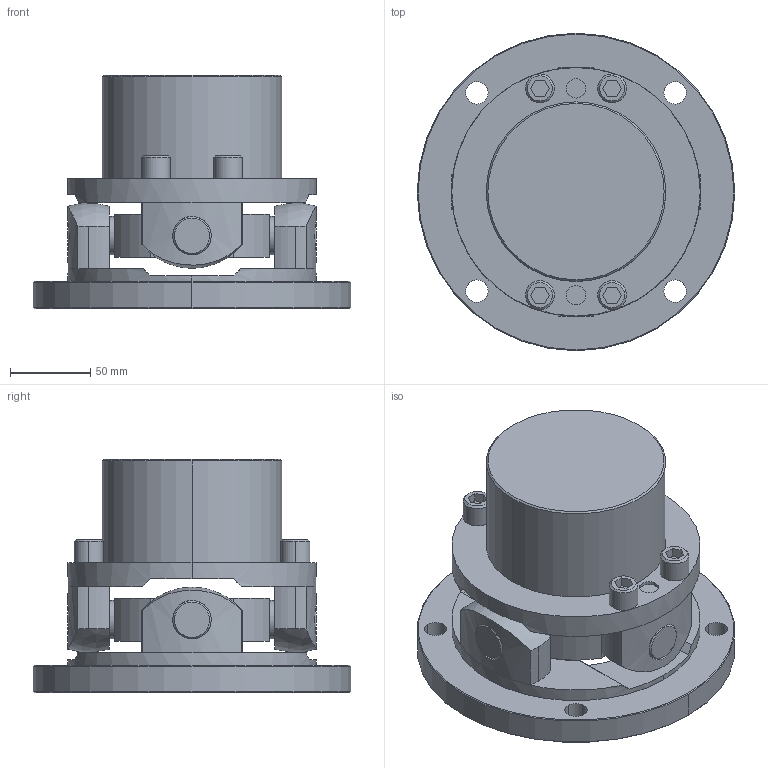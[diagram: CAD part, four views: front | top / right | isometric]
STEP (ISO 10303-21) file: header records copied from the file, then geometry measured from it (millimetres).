
FILE_DESCRIPTION((''),'2;1');
FILE_NAME('UCRF-155.stp','2013-05-13T09:12:15',(''),(''),'AutoCAD STEP 2000i','AutoCAD 2000i',', , ');
FILE_SCHEMA(('CONFIG_CONTROL_DESIGN'));
Length unit declared in the file: millimetre
Products named in the file (7): UCRF-155; 忣兜1; UCR-15502; UCNF-15502; UCN155-B045-1; UCN155-B045; UCN155-SEN
Assembly tree (6 placements, depth 2):
  UCRF-155
    忣兜1
    UCR-15502
    UCNF-15502
    UCN155-B045-1
    UCN155-B045
    UCN155-SEN
Bounding box: 198 x 198 x 145.5 mm (x, y, z)
Volume: 1683540.1 mm3; surface area: 194752.1 mm2
Topology: 1 solids, 1 shells, 237 faces, 585 edges, 390 vertices
Faces by surface type: plane 105, cylinder 94, cone 34, sphere 4
Entity records: 7650 total; most frequent: CARTESIAN_POINT 1616, DIRECTION 1315, ORIENTED_EDGE 1156, EDGE_CURVE 578, AXIS2_PLACEMENT_3D 502, VERTEX_POINT 376, VECTOR 311, LINE 311
